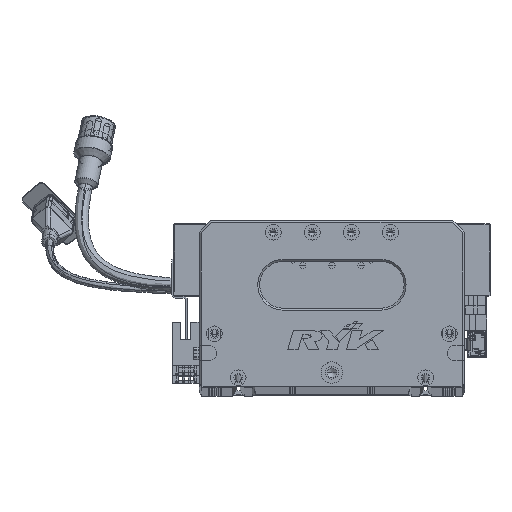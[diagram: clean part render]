
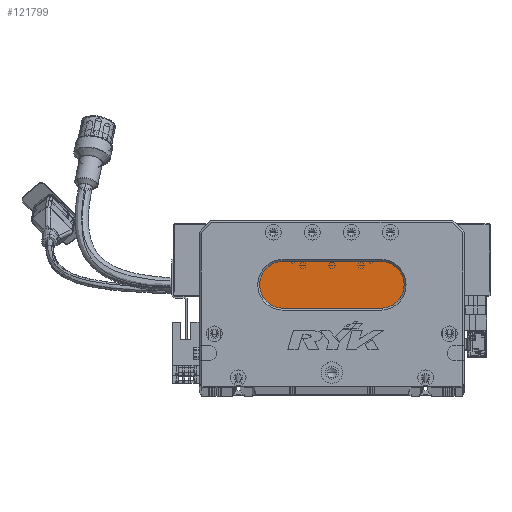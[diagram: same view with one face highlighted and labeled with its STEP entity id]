
A CAD part, top view. The second image highlights one B-rep face of the part: STEP entity #121799.
In plain terms, the highlighted planar face has unit normal (0, 0, 1) as drawn and (0, 0, -1) by its records, which use the part's own axes.
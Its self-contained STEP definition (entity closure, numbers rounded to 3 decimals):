
#1243 = DIRECTION ( 'NONE',  ( -1., 0., 0. ) ) ;
#2554 = FACE_OUTER_BOUND ( 'NONE', #31342, .T. ) ;
#4329 = CARTESIAN_POINT ( 'NONE',  ( 93., 40., 13. ) ) ;
#5820 = VECTOR ( 'NONE', #43096, 1000. ) ;
#5906 = VERTEX_POINT ( 'NONE', #106924 ) ;
#6013 = LINE ( 'NONE', #4329, #71538 ) ;
#6131 = AXIS2_PLACEMENT_3D ( 'NONE', #89161, #49012, #28559 ) ;
#8189 = DIRECTION ( 'NONE',  ( 0., 0., -1. ) ) ;
#8367 = EDGE_CURVE ( 'NONE', #90934, #97408, #13339, .T. ) ;
#9456 = AXIS2_PLACEMENT_3D ( 'NONE', #32950, #100940, #41212 ) ;
#13339 = CIRCLE ( 'NONE', #6131, 12. ) ;
#13443 = ORIENTED_EDGE ( 'NONE', *, *, #8367, .T. ) ;
#17870 = EDGE_CURVE ( 'NONE', #97408, #115415, #6013, .T. ) ;
#22706 = DIRECTION ( 'NONE',  ( 0., 0., -1. ) ) ;
#25718 = CARTESIAN_POINT ( 'NONE',  ( 43., 40., 13. ) ) ;
#28559 = DIRECTION ( 'NONE',  ( -1., 0., 0. ) ) ;
#31342 = EDGE_LOOP ( 'NONE', ( #13443, #39443, #32342, #95095, #71108 ) ) ;
#32342 = ORIENTED_EDGE ( 'NONE', *, *, #83242, .T. ) ;
#32950 = CARTESIAN_POINT ( 'NONE',  ( 43., 52., 13. ) ) ;
#39443 = ORIENTED_EDGE ( 'NONE', *, *, #17870, .T. ) ;
#41212 = DIRECTION ( 'NONE',  ( -1., 0., 0. ) ) ;
#43096 = DIRECTION ( 'NONE',  ( 1., 0., 0. ) ) ;
#44376 = DIRECTION ( 'NONE',  ( -1., 0., 0. ) ) ;
#47305 = CARTESIAN_POINT ( 'NONE',  ( 31., 52., 13. ) ) ;
#49012 = DIRECTION ( 'NONE',  ( 0., 0., -1. ) ) ;
#63261 = DIRECTION ( 'NONE',  ( -1., 0., 0. ) ) ;
#63502 = AXIS2_PLACEMENT_3D ( 'NONE', #123380, #22706, #63261 ) ;
#69244 = CARTESIAN_POINT ( 'NONE',  ( 93., 64., 13. ) ) ;
#69688 = CARTESIAN_POINT ( 'NONE',  ( 93., 40., 13. ) ) ;
#71108 = ORIENTED_EDGE ( 'NONE', *, *, #121561, .T. ) ;
#71538 = VECTOR ( 'NONE', #44376, 1000. ) ;
#76220 = PLANE ( 'NONE',  #116907 ) ;
#77472 = LINE ( 'NONE', #83233, #5820 ) ;
#77878 = CIRCLE ( 'NONE', #9456, 12. ) ;
#83233 = CARTESIAN_POINT ( 'NONE',  ( 93., 64., 13. ) ) ;
#83242 = EDGE_CURVE ( 'NONE', #115415, #96253, #77878, .T. ) ;
#89161 = CARTESIAN_POINT ( 'NONE',  ( 93., 52., 13. ) ) ;
#90681 = CIRCLE ( 'NONE', #63502, 12. ) ;
#90934 = VERTEX_POINT ( 'NONE', #69244 ) ;
#95095 = ORIENTED_EDGE ( 'NONE', *, *, #97042, .T. ) ;
#96253 = VERTEX_POINT ( 'NONE', #47305 ) ;
#97042 = EDGE_CURVE ( 'NONE', #96253, #5906, #90681, .T. ) ;
#97408 = VERTEX_POINT ( 'NONE', #69688 ) ;
#100607 = CARTESIAN_POINT ( 'NONE',  ( 93., 52., 13. ) ) ;
#100940 = DIRECTION ( 'NONE',  ( 0., 0., -1. ) ) ;
#106924 = CARTESIAN_POINT ( 'NONE',  ( 43., 64., 13. ) ) ;
#115415 = VERTEX_POINT ( 'NONE', #25718 ) ;
#116907 = AXIS2_PLACEMENT_3D ( 'NONE', #100607, #8189, #1243 ) ;
#121561 = EDGE_CURVE ( 'NONE', #5906, #90934, #77472, .T. ) ;
#121799 = ADVANCED_FACE ( 'NONE', ( #2554 ), #76220, .T. ) ;
#123380 = CARTESIAN_POINT ( 'NONE',  ( 43., 52., 13. ) ) ;
